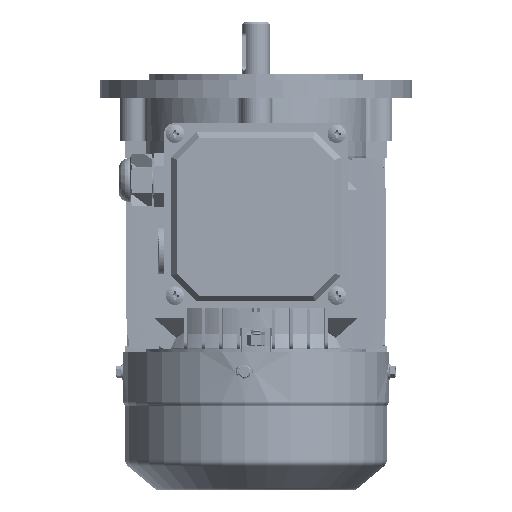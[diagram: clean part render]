
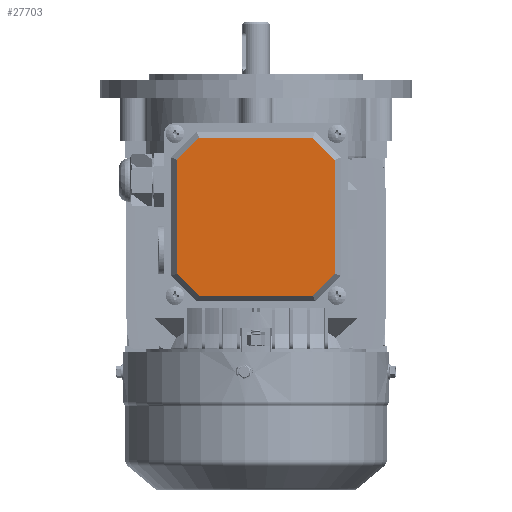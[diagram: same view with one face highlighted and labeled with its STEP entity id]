
A CAD part, left-side view. The second image highlights one B-rep face of the part: STEP entity #27703.
In plain terms, the highlighted planar face has unit normal (-1, 0, 0) as drawn and (0, 1, 0) by its records, which use the part's own axes.
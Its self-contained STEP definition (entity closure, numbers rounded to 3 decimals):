
#233 = LINE ( 'NONE', #7231, #58091 ) ;
#5658 = DIRECTION ( 'NONE',  ( 1., 0., 0. ) ) ;
#5675 = CARTESIAN_POINT ( 'NONE',  ( 29.15, 6., -40.5 ) ) ;
#6143 = EDGE_LOOP ( 'NONE', ( #99677, #45504, #72116, #133849, #98116, #6956, #136414, #102281 ) ) ;
#6340 = CARTESIAN_POINT ( 'NONE',  ( -34.825, 6., 34.825 ) ) ;
#6956 = ORIENTED_EDGE ( 'NONE', *, *, #107514, .T. ) ;
#7231 = CARTESIAN_POINT ( 'NONE',  ( 0., 6., -40.5 ) ) ;
#7485 = DIRECTION ( 'NONE',  ( 0., 0., -1. ) ) ;
#8995 = VERTEX_POINT ( 'NONE', #57813 ) ;
#12501 = VECTOR ( 'NONE', #91549, 1000. ) ;
#12605 = DIRECTION ( 'NONE',  ( 0., 0., -1. ) ) ;
#18706 = CARTESIAN_POINT ( 'NONE',  ( -34.825, 6., -34.825 ) ) ;
#20448 = VECTOR ( 'NONE', #23906, 1000. ) ;
#23125 = CARTESIAN_POINT ( 'NONE',  ( 0., 6., 0. ) ) ;
#23906 = DIRECTION ( 'NONE',  ( 0.707, 0., -0.707 ) ) ;
#27703 = ADVANCED_FACE ( 'NONE', ( #86617 ), #44928, .F. ) ;
#27976 = VECTOR ( 'NONE', #71588, 1000. ) ;
#28323 = VERTEX_POINT ( 'NONE', #5675 ) ;
#29582 = VERTEX_POINT ( 'NONE', #108715 ) ;
#29630 = DIRECTION ( 'NONE',  ( -0.707, 0., 0.707 ) ) ;
#29699 = VECTOR ( 'NONE', #29630, 1000. ) ;
#31337 = LINE ( 'NONE', #6340, #27976 ) ;
#31665 = CARTESIAN_POINT ( 'NONE',  ( 40.5, 6., -29.15 ) ) ;
#34138 = CARTESIAN_POINT ( 'NONE',  ( 34.825, 6., -34.825 ) ) ;
#39136 = AXIS2_PLACEMENT_3D ( 'NONE', #23125, #77835, #12605 ) ;
#39322 = CARTESIAN_POINT ( 'NONE',  ( -40.5, 6., 29.15 ) ) ;
#40739 = VERTEX_POINT ( 'NONE', #44770 ) ;
#42033 = VECTOR ( 'NONE', #5658, 1000. ) ;
#44770 = CARTESIAN_POINT ( 'NONE',  ( 40.5, 6., 29.15 ) ) ;
#44928 = PLANE ( 'NONE',  #39136 ) ;
#45253 = CARTESIAN_POINT ( 'NONE',  ( 34.825, 6., 34.825 ) ) ;
#45504 = ORIENTED_EDGE ( 'NONE', *, *, #59398, .T. ) ;
#54253 = CARTESIAN_POINT ( 'NONE',  ( -40.5, 6., -29.15 ) ) ;
#57813 = CARTESIAN_POINT ( 'NONE',  ( 29.15, 6., 40.5 ) ) ;
#58091 = VECTOR ( 'NONE', #83459, 1000. ) ;
#59398 = EDGE_CURVE ( 'NONE', #40739, #68197, #116331, .T. ) ;
#68197 = VERTEX_POINT ( 'NONE', #31665 ) ;
#70262 = VERTEX_POINT ( 'NONE', #54253 ) ;
#71033 = LINE ( 'NONE', #114346, #42033 ) ;
#71588 = DIRECTION ( 'NONE',  ( 0.707, 0., 0.707 ) ) ;
#72116 = ORIENTED_EDGE ( 'NONE', *, *, #104384, .T. ) ;
#72368 = EDGE_CURVE ( 'NONE', #8995, #40739, #103966, .T. ) ;
#76819 = EDGE_CURVE ( 'NONE', #28323, #120551, #233, .T. ) ;
#77835 = DIRECTION ( 'NONE',  ( 0., -1., 0. ) ) ;
#81038 = CARTESIAN_POINT ( 'NONE',  ( -40.5, 6., 0. ) ) ;
#83459 = DIRECTION ( 'NONE',  ( -1., 0., 0. ) ) ;
#83726 = CARTESIAN_POINT ( 'NONE',  ( 40.5, 6., 0. ) ) ;
#86617 = FACE_OUTER_BOUND ( 'NONE', #6143, .T. ) ;
#91549 = DIRECTION ( 'NONE',  ( 0., 0., 1. ) ) ;
#92533 = VERTEX_POINT ( 'NONE', #39322 ) ;
#93159 = EDGE_CURVE ( 'NONE', #120551, #70262, #116647, .T. ) ;
#98116 = ORIENTED_EDGE ( 'NONE', *, *, #93159, .T. ) ;
#99677 = ORIENTED_EDGE ( 'NONE', *, *, #72368, .T. ) ;
#102209 = VECTOR ( 'NONE', #110427, 1000. ) ;
#102281 = ORIENTED_EDGE ( 'NONE', *, *, #123379, .T. ) ;
#102860 = LINE ( 'NONE', #81038, #12501 ) ;
#103824 = CARTESIAN_POINT ( 'NONE',  ( -29.15, 6., -40.5 ) ) ;
#103966 = LINE ( 'NONE', #45253, #20448 ) ;
#104384 = EDGE_CURVE ( 'NONE', #68197, #28323, #131244, .T. ) ;
#107025 = EDGE_CURVE ( 'NONE', #92533, #29582, #31337, .T. ) ;
#107514 = EDGE_CURVE ( 'NONE', #70262, #92533, #102860, .T. ) ;
#108715 = CARTESIAN_POINT ( 'NONE',  ( -29.15, 6., 40.5 ) ) ;
#110427 = DIRECTION ( 'NONE',  ( -0.707, 0., -0.707 ) ) ;
#114346 = CARTESIAN_POINT ( 'NONE',  ( 0., 6., 40.5 ) ) ;
#116331 = LINE ( 'NONE', #83726, #119730 ) ;
#116647 = LINE ( 'NONE', #18706, #29699 ) ;
#119730 = VECTOR ( 'NONE', #7485, 1000. ) ;
#120551 = VERTEX_POINT ( 'NONE', #103824 ) ;
#123379 = EDGE_CURVE ( 'NONE', #29582, #8995, #71033, .T. ) ;
#131244 = LINE ( 'NONE', #34138, #102209 ) ;
#133849 = ORIENTED_EDGE ( 'NONE', *, *, #76819, .T. ) ;
#136414 = ORIENTED_EDGE ( 'NONE', *, *, #107025, .T. ) ;
